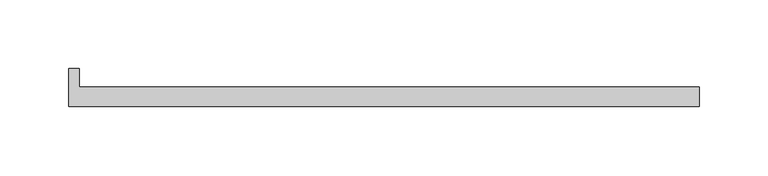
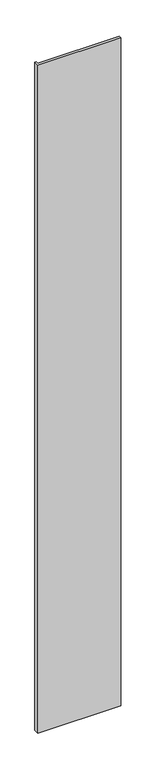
"""IFC4 building model written with IfcOpenShell, lengths in millimetres: plate geometry, Walls_Curtain-Walls_Danpal_AIRPT : Walls_Curtain-Walls_Danpal_AIRPT."""

from ifc_helpers import new_model, si_unit, origin, origin_with_axes, place, context, project, spatial, polyline, outline, extrude, source, transform, mapped, element, save


def plate_4c6f184a(model_context):
    return source(origin(), model_context, "Body", "SweptSolid", [
        extrude(outline(polyline([(-221.120848, 14.1228126), (228.8402049, 14.1228126), (228.8402049, 0.0), (-228.8402049, 0.0), (-228.8402049, 27.3924397), (-221.120848, 27.3924397), (-221.120848, 14.1228126)])), origin_with_axes(), (0.0, 0.0, 1.0), 3887.6638156),
    ])


if __name__ == "__main__":
    model = new_model("IFC4")
    model_context = context("Model", 3, world=origin())
    ifc_project = project(units=[si_unit("LENGTHUNIT", "METRE", prefix="MILLI")], contexts=[model_context])
    site = spatial("IfcSite", under=ifc_project)
    building = spatial("IfcBuilding", under=site)
    placement = place(None, origin())
    plate_shape = plate_4c6f184a(model_context)
    element("IfcPlate", 1, ObjectType="Walls_Curtain-Walls_Danpal_AIRPT : Walls_Curtain-Walls_Danpal_AIRPT", at=placement, inside=building, context=model_context, shape_type="MappedRepresentation", body=[
        mapped(plate_shape, transform((0.0, 0.0, 0.0), x_axis=(1.0, 0.0, 0.0), y_axis=(0.0, 1.0, 0.0), z_axis=(0.0, 0.0, 1.0))),
    ])
    save(model, "model.ifc")
